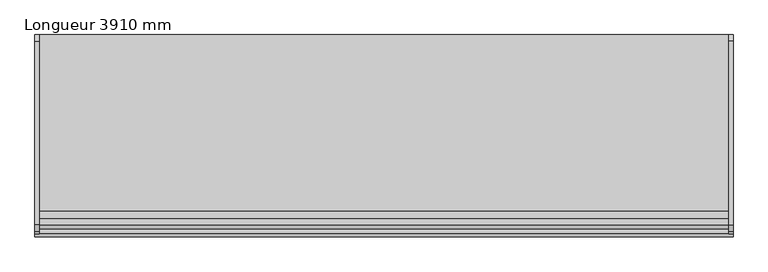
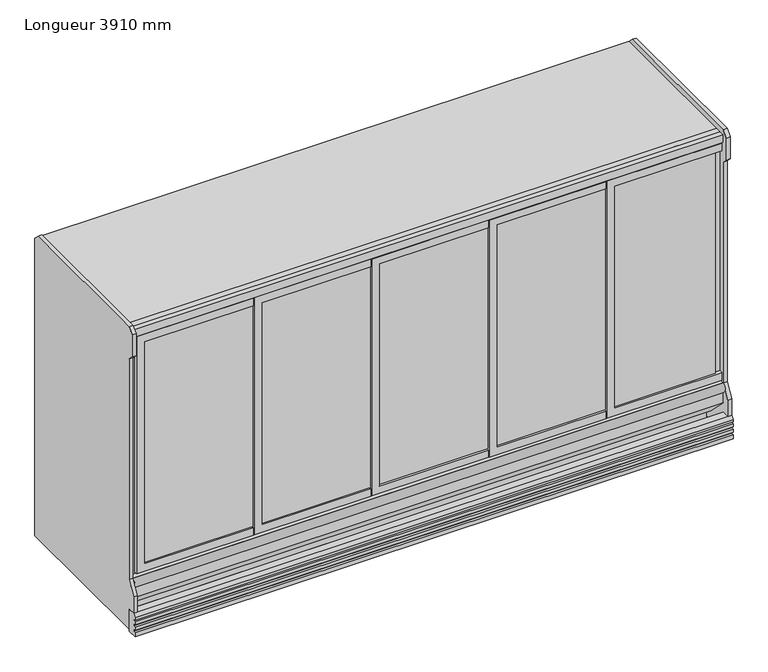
"""IFC4 building model written with IfcOpenShell, lengths in millimetres: proxy geometry, Congélateur - Vertical cinq portes : Longueur 3910 mm."""

from ifc_helpers import new_model, si_unit, point, frame, frame_2d, origin, origin_with_axes, place, context, project, spatial, polyline, circle_curve, trimmed, segment, composite_curve, outline, extrude, source, transform, mapped, element, save


def longueur_3910_mm_16bd9117(model_context):
    return source(origin(), model_context, "Body", "SweptSolid", [
        extrude(outline(polyline([(2006.6, -181.76875), (368.3, -181.76875), (368.3, 580.23125), (419.1, 580.23125), (419.1, -130.96875), (1955.8, -130.96875), (1955.8, 580.23125), (2006.6, 580.23125), (2006.6, -181.76875)])), frame((0.0, 12.7, 0.0), z_axis=(0.0, 1.0, 0.0), x_axis=(0.0, 0.0, 1.0)), (0.0, 0.0, 1.0), 25.4),
        extrude(outline(polyline([(2006.6, -950.11875), (368.3, -950.11875), (368.3, -188.11875), (419.1, -188.11875), (419.1, -899.31875), (1955.8, -899.31875), (1955.8, -188.11875), (2006.6, -188.11875), (2006.6, -950.11875)])), frame((0.0, 12.7, 0.0), z_axis=(0.0, 1.0, 0.0), x_axis=(0.0, 0.0, 1.0)), (0.0, 0.0, 1.0), 25.4),
        extrude(outline(polyline([(2006.6, -1718.46875), (368.3, -1718.46875), (368.3, -956.46875), (419.1, -956.46875), (419.1, -1667.66875), (1955.8, -1667.66875), (1955.8, -956.46875), (2006.6, -956.46875), (2006.6, -1718.46875)])), frame((0.0, 12.7, 0.0), z_axis=(0.0, 1.0, 0.0), x_axis=(0.0, 0.0, 1.0)), (0.0, 0.0, 1.0), 25.4),
        extrude(outline(polyline([(2006.6, -2486.81875), (368.3, -2486.81875), (368.3, -1724.81875), (419.1, -1724.81875), (419.1, -2436.01875), (1955.8, -2436.01875), (1955.8, -1724.81875), (2006.6, -1724.81875), (2006.6, -2486.81875)])), frame((0.0, 12.7, 0.0), z_axis=(0.0, 1.0, 0.0), x_axis=(0.0, 0.0, 1.0)), (0.0, 0.0, 1.0), 25.4),
        extrude(outline(polyline([(901.7, 2032.0), (914.4, 2032.0), (914.4, 304.8), (901.7, 304.8), (901.7, 520.7), (789.5883758, 520.7), (770.5383758, 539.75), (396.4294877, 539.75), (387.5463268, 558.8), (901.7, 558.8), (901.7, 812.8), (784.8565717, 812.8), (765.8065717, 831.85), (396.4294877, 831.85), (387.5463268, 850.9), (901.7, 850.9), (901.7, 1104.9), (780.1247675, 1104.9), (761.0747675, 1123.95), (307.9576791, 1123.95), (299.0745182, 1143.0), (901.7, 1143.0), (901.7, 1397.0), (784.8565717, 1397.0), (765.8065717, 1416.05), (307.9576791, 1416.05), (299.0745182, 1435.1), (901.7, 1435.1), (901.7, 1689.1), (780.1247675, 1689.1), (761.0747675, 1708.15), (311.7745182, 1708.15), (304.8, 1727.2), (901.7, 1727.2), (901.7, 2032.0)])), frame((-2105.4281537, 0.0, 0.0), z_axis=(1.0, 0.0, 0.0), x_axis=(0.0, 1.0, 0.0)), (0.0, 0.0, 1.0), 11.9188073),
        extrude(outline(polyline([(901.7, 2032.0), (914.4, 2032.0), (914.4, 304.8), (901.7, 304.8), (901.7, 520.7), (789.5883758, 520.7), (770.5383758, 539.75), (396.4294877, 539.75), (387.5463268, 558.8), (901.7, 558.8), (901.7, 812.8), (784.8565717, 812.8), (765.8065717, 831.85), (396.4294877, 831.85), (387.5463268, 850.9), (901.7, 850.9), (901.7, 1104.9), (780.1247675, 1104.9), (761.0747675, 1123.95), (307.9576791, 1123.95), (299.0745182, 1143.0), (901.7, 1143.0), (901.7, 1397.0), (784.8565717, 1397.0), (765.8065717, 1416.05), (307.9576791, 1416.05), (299.0745182, 1435.1), (901.7, 1435.1), (901.7, 1689.1), (780.1247675, 1689.1), (761.0747675, 1708.15), (311.7745182, 1708.15), (304.8, 1727.2), (901.7, 1727.2), (901.7, 2032.0)])), frame((-556.0281537, 0.0, 0.0), z_axis=(1.0, 0.0, 0.0), x_axis=(0.0, 1.0, 0.0)), (0.0, 0.0, 1.0), 11.9188073),
        extrude(outline(polyline([(2006.6, -3255.16875), (368.3, -3255.16875), (368.3, -2493.16875), (419.1, -2493.16875), (419.1, -3204.36875), (1955.8, -3204.36875), (1955.8, -2493.16875), (2006.6, -2493.16875), (2006.6, -3255.16875)])), frame((0.0, 12.7, 0.0), z_axis=(0.0, 1.0, 0.0), x_axis=(0.0, 0.0, 1.0)), (0.0, 0.0, 1.0), 25.4),
        extrude(outline(polyline([(535.78125, 25.4), (-1667.66875, 25.4), (-1667.66875, 31.75), (535.78125, 31.75), (535.78125, 25.4)])), frame((0.0, 0.0, 419.1), z_axis=(0.0, 0.0, 1.0), x_axis=(1.0, 0.0, 0.0)), (0.0, 0.0, 1.0), 1536.7),
        extrude(outline(polyline([(-1718.46875, 25.4), (-3210.71875, 25.4), (-3210.71875, 31.75), (-1718.46875, 31.75), (-1718.46875, 25.4)])), frame((0.0, 0.0, 419.1), z_axis=(0.0, 0.0, 1.0), x_axis=(1.0, 0.0, 0.0)), (0.0, 0.0, 1.0), 1536.7),
        extrude(outline(polyline([(2070.1, 573.88125), (2070.1, -3286.91875), (304.8, -3286.91875), (304.8, 573.88125), (2070.1, 573.88125)]), holes=[polyline([(1993.9, -1337.46875), (1993.9, 535.78125), (381.0, 535.78125), (381.0, -1337.46875), (381.0, -3248.81875), (1993.9, -3248.81875), (1993.9, -1337.46875)])]), frame((0.0, 38.1, 0.0), z_axis=(0.0, 1.0, 0.0), x_axis=(0.0, 0.0, 1.0)), (0.0, 0.0, 1.0), 38.1),
        extrude(outline(composite_curve([segment(trimmed(circle_curve(frame_2d((9.5885861, 324.3228586)), 32.7139199), [point((0.0, 293.0457172))], [point((0.0, 355.6))], False, "CARTESIAN"), True, "CONTINUOUS"), segment(polyline([(0.0, 355.6), (0.0, 293.0457172)]), True, "CONTINUOUS")], self_intersect=False)), frame((-3286.91875, 0.0, 0.0), z_axis=(1.0, 0.0, 0.0), x_axis=(0.0, 1.0, 0.0)), (0.0, 0.0, 1.0), 3860.8),
        extrude(outline(polyline([(-50.8, 152.4), (0.0, 152.4), (0.0, 0.0), (-67.5825973, 0.0), (-67.5825973, 28.6219057), (-50.8, 28.6219057), (-50.8, 47.6719057), (-67.5825973, 47.6719057), (-67.5825973, 66.7219057), (-50.8, 66.7219057), (-50.8, 85.7719057), (-67.5825973, 85.7719057), (-67.5825973, 104.8219057), (-50.8, 104.8219057), (-50.8, 117.5219057), (-67.5825973, 117.5219057), (-67.5825973, 131.7872166), (-50.8, 152.4)])), frame((-3312.31875, 0.0, 0.0), z_axis=(1.0, 0.0, 0.0), x_axis=(0.0, 1.0, 0.0)), (0.0, 0.0, 1.0), 3911.6),
        extrude(outline(polyline([(1030.8789755, 2106.0210245), (1066.8, 2070.1), (1066.8, 12.7), (0.0, 12.7), (0.0, 152.4), (-50.8, 152.4), (-50.8, 267.611819), (0.0, 355.6), (0.0, 1881.7789755), (-35.9210245, 1917.7), (-35.9210245, 2070.1), (0.0, 2106.0210245), (1030.8789755, 2106.0210245)])), frame((573.88125, 0.0, 0.0), z_axis=(1.0, 0.0, 0.0), x_axis=(0.0, 1.0, 0.0)), (0.0, 0.0, 1.0), 25.4),
        extrude(outline(polyline([(1030.8789755, 2106.0210245), (1066.8, 2070.1), (1066.8, 12.7), (0.0, 12.7), (0.0, 152.4), (-50.8, 152.4), (-50.8, 267.611819), (0.0, 355.6), (0.0, 1881.7789755), (-35.9210245, 1917.7), (-35.9210245, 2070.1), (0.0, 2106.0210245), (1030.8789755, 2106.0210245)])), frame((-3312.31875, 0.0, 0.0), z_axis=(1.0, 0.0, 0.0), x_axis=(0.0, 1.0, 0.0)), (0.0, 0.0, 1.0), 25.4),
        extrude(outline(polyline([(-3274.21875, 292.1), (-3274.21875, 901.7), (561.18125, 901.7), (561.18125, 292.1), (-3274.21875, 292.1)])), frame((0.0, 0.0, 1727.2), z_axis=(0.0, 0.0, 1.0), x_axis=(1.0, 0.0, 0.0)), (0.0, 0.0, 1.0), 9.525),
        extrude(outline(polyline([(-3274.21875, 292.1), (-3274.21875, 901.7), (561.18125, 901.7), (561.18125, 292.1), (-3274.21875, 292.1)])), frame((0.0, 0.0, 1435.1), z_axis=(0.0, 0.0, 1.0), x_axis=(1.0, 0.0, 0.0)), (0.0, 0.0, 1.0), 9.525),
        extrude(outline(polyline([(-3274.21875, 292.1), (-3274.21875, 901.7), (561.18125, 901.7), (561.18125, 292.1), (-3274.21875, 292.1)])), frame((0.0, 0.0, 1143.0), z_axis=(0.0, 0.0, 1.0), x_axis=(1.0, 0.0, 0.0)), (0.0, 0.0, 1.0), 9.525),
        extrude(outline(polyline([(-3274.21875, 292.1), (-3274.21875, 901.7), (561.18125, 901.7), (561.18125, 292.1), (-3274.21875, 292.1)])), frame((0.0, 0.0, 850.9), z_axis=(0.0, 0.0, 1.0), x_axis=(1.0, 0.0, 0.0)), (0.0, 0.0, 1.0), 9.525),
        extrude(outline(polyline([(-3274.21875, 292.1), (-3274.21875, 901.7), (561.18125, 901.7), (561.18125, 292.1), (-3274.21875, 292.1)])), frame((0.0, 0.0, 558.8), z_axis=(0.0, 0.0, 1.0), x_axis=(1.0, 0.0, 0.0)), (0.0, 0.0, 1.0), 9.525),
        extrude(outline(polyline([(901.7, 2032.0), (914.4, 2032.0), (914.4, 304.8), (901.7, 304.8), (901.7, 520.7), (795.3138575, 520.7), (776.2638575, 539.75), (402.1549695, 539.75), (393.2718086, 558.8), (901.7, 558.8), (901.7, 812.8), (790.5820534, 812.8), (771.5320534, 831.85), (402.1549695, 831.85), (393.2718086, 850.9), (901.7, 850.9), (901.7, 1104.9), (785.8502493, 1104.9), (766.8002493, 1123.95), (313.6831609, 1123.95), (304.8, 1143.0), (901.7, 1143.0), (901.7, 1397.0), (790.5820534, 1397.0), (771.5320534, 1416.05), (313.6831609, 1416.05), (304.8, 1435.1), (901.7, 1435.1), (901.7, 1689.1), (785.8502493, 1689.1), (766.8002493, 1708.15), (317.5, 1708.15), (304.8, 1727.2), (901.7, 1727.2), (901.7, 2032.0)])), frame((-1362.4781537, 0.0, 0.0), z_axis=(1.0, 0.0, 0.0), x_axis=(0.0, 1.0, 0.0)), (0.0, 0.0, 1.0), 11.9188073),
        extrude(outline(polyline([(901.7, 2032.0), (914.4, 2032.0), (914.4, 304.8), (901.7, 304.8), (901.7, 520.7), (795.3138575, 520.7), (776.2638575, 539.75), (402.1549695, 539.75), (393.2718086, 558.8), (901.7, 558.8), (901.7, 812.8), (790.5820534, 812.8), (771.5320534, 831.85), (402.1549695, 831.85), (393.2718086, 850.9), (901.7, 850.9), (901.7, 1104.9), (785.8502493, 1104.9), (766.8002493, 1123.95), (313.6831609, 1123.95), (304.8, 1143.0), (901.7, 1143.0), (901.7, 1397.0), (790.5820534, 1397.0), (771.5320534, 1416.05), (313.6831609, 1416.05), (304.8, 1435.1), (901.7, 1435.1), (901.7, 1689.1), (785.8502493, 1689.1), (766.8002493, 1708.15), (317.5, 1708.15), (304.8, 1727.2), (901.7, 1727.2), (901.7, 2032.0)])), frame((548.48125, 0.0, 0.0), z_axis=(1.0, 0.0, 0.0), x_axis=(0.0, 1.0, 0.0)), (0.0, 0.0, 1.0), 12.7),
        extrude(outline(polyline([(901.7, 2032.0), (914.4, 2032.0), (914.4, 304.8), (901.7, 304.8), (901.7, 520.7), (795.3138575, 520.7), (776.2638575, 539.75), (402.1549695, 539.75), (393.2718086, 558.8), (901.7, 558.8), (901.7, 812.8), (790.5820534, 812.8), (771.5320534, 831.85), (402.1549695, 831.85), (393.2718086, 850.9), (901.7, 850.9), (901.7, 1104.9), (785.8502493, 1104.9), (766.8002493, 1123.95), (313.6831609, 1123.95), (304.8, 1143.0), (901.7, 1143.0), (901.7, 1397.0), (790.5820534, 1397.0), (771.5320534, 1416.05), (313.6831609, 1416.05), (304.8, 1435.1), (901.7, 1435.1), (901.7, 1689.1), (785.8502493, 1689.1), (766.8002493, 1708.15), (317.5, 1708.15), (304.8, 1727.2), (901.7, 1727.2), (901.7, 2032.0)])), frame((-3274.21875, 0.0, 0.0), z_axis=(1.0, 0.0, 0.0), x_axis=(0.0, 1.0, 0.0)), (0.0, 0.0, 1.0), 12.7),
        extrude(outline(polyline([(0.0, 2070.1), (1066.8, 2070.1), (1066.8, 76.2), (140.3569315, 76.2), (0.0, 216.5569315), (0.0, 355.6), (38.1, 355.6), (38.1, 304.8), (914.4, 304.8), (914.4, 2032.0), (152.4, 2032.0), (152.4, 2019.3), (0.0, 2019.3), (0.0, 2070.1)])), frame((-3286.91875, 0.0, 0.0), z_axis=(1.0, 0.0, 0.0), x_axis=(0.0, 1.0, 0.0)), (0.0, 0.0, 1.0), 3860.8),
        extrude(outline(polyline([(573.88125, 1047.75), (573.88125, 190.5), (-3286.91875, 190.5), (-3286.91875, 1047.75), (573.88125, 1047.75)])), origin_with_axes(), (0.0, 0.0, 1.0), 76.2),
    ])


if __name__ == "__main__":
    model = new_model("IFC4")
    model_context = context("Model", 3, world=origin())
    ifc_project = project(units=[si_unit("LENGTHUNIT", "METRE", prefix="MILLI")], contexts=[model_context])
    site = spatial("IfcSite", under=ifc_project)
    building = spatial("IfcBuilding", under=site)
    placement = place(None, origin())
    longueur_3910_mm_shape = longueur_3910_mm_16bd9117(model_context)
    element("IfcBuildingElementProxy", 1, Name="Congélateur - Vertical cinq portes : Longueur 3910 mm", ObjectType="Congélateur - Vertical cinq portes : Longueur 3910 mm", at=placement, inside=building, context=model_context, shape_type="MappedRepresentation", body=[
        mapped(longueur_3910_mm_shape, transform((0.0, 0.0, 0.0), x_axis=(1.0, 0.0, 0.0), y_axis=(0.0, 1.0, 0.0), z_axis=(0.0, 0.0, 1.0))),
    ])
    save(model, "model.ifc")
